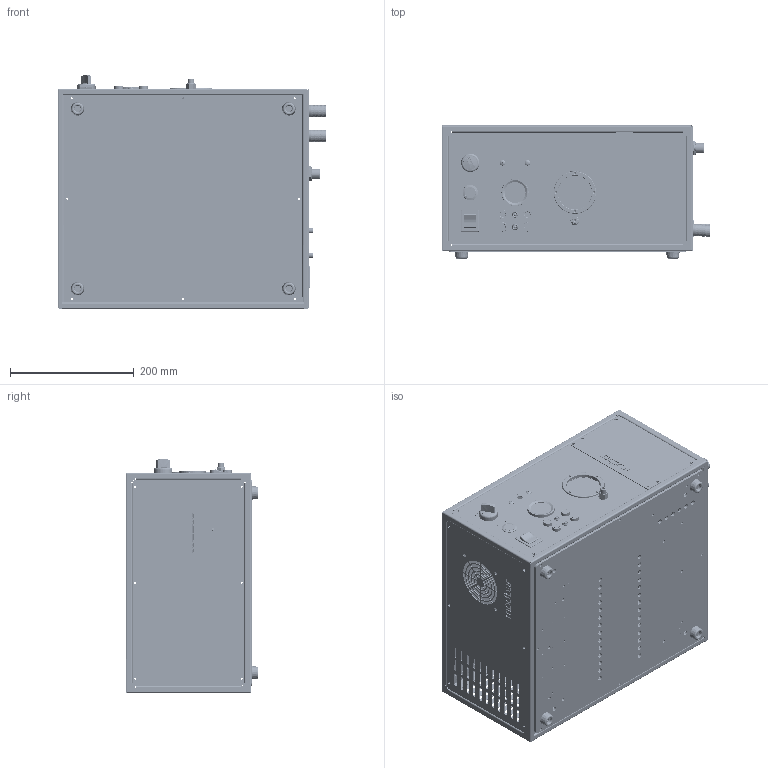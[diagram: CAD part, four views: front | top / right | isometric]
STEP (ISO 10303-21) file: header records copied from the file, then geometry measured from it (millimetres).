
FILE_DESCRIPTION (( 'STEP AP214' ), '1' );
FILE_NAME ('LM0015615_-_.step', '2018-10-16T15:33:34', ( '' ), ( '' ), 'SwSTEP 2.0', 'SolidWorks 2017', '' );
FILE_SCHEMA (( 'AUTOMOTIVE_DESIGN' ));
Length unit declared in the file: millimetre
Products named in the file (60): LM0002055; LM0007269_M-5014-01; LM0008635_E-0128-01_sg_OFF; LM0001613; LM0001612; NB.M.0031; LM0002363; LM0002269; LM0012910; LM0015156; LM0001509; LM0000013; LM0014637; LM0001510; LM0008637_E-5011-01; LM0008638_E-5011-01_ring_of; LM0006914; LM0008639_E-5011-01_selector_of; LM0014638; LM0002268; LM0011804; LM0001557; LM0002260; LM0014639; LM0002266; LM0001530; LM0002194; LM0002265; LM0013636; LM0001508; LM0001560; LM0002267; LM0002259; LM0005131; LM0002264; LM0008839; LM0002270; LM0013887; LM0001610; LM0015615_-_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
Assembly tree (70 placements, depth 4):
  LM0015615_-_
    LM0011856
      LM0011862
      LM0008848
    LM0014569
    LM0008824
    LM0013887
    LM0007269_M-5014-01
    LM0008839
    LM0002259
      LM0002260
      LM0002263
      LM0002267
      LM0002266
      LM0002264
      LM0002265
      LM0002270
      LM0002269
      LM0002268
    LM0012082
      LM0013636
        LM0005131
        LM0012910
      LM0001584_Default_assembly
      LM0001557
      LM0001558
      LM0001559
      LM0001560
      LM0012919_Default_WH
    LM0008637_E-5011-01
      LM0008639_E-5011-01_selector_of
      LM0008638_E-5011-01_ring_of
    LM0013016_Default_OFF
      LM0008635_E-0128-01_sg_OFF
      LM0013017
    LM0000013  x4
    LM0011804
    LM0014637
    NB.M.0031
    LM0002363
    LM0001547
      LM0001529
      LM0001531
      LM0001530
    LM0002206
    LM0001507  x4
      LM0001508
      LM0001510
      LM0001509
    LM0001610  x2
      LM0001613
      LM0001611
      LM0001612
    LM0006914
    LM0002055  x2
    LM0014638  x2
      LM0014640
      LM0014639
    LM0015156  x2
    LM0002194  x2
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Bounding box: 434.41 x 214.64 x 377.77 mm (x, y, z)
Volume: 1213950.6 mm3; surface area: 1466590 mm2
Topology: 88 solids, 92 shells, 6570 faces, 17330 edges, 11142 vertices
Faces by surface type: plane 3227, cylinder 2316, cone 481, bspline 429, torus 107, sphere 10
Entity records: 211544 total; most frequent: CARTESIAN_POINT 58434, ORIENTED_EDGE 30182, DIRECTION 28813, EDGE_CURVE 15091, AXIS2_PLACEMENT_3D 9796, VERTEX_POINT 9734, LINE 9221, VECTOR 9221
